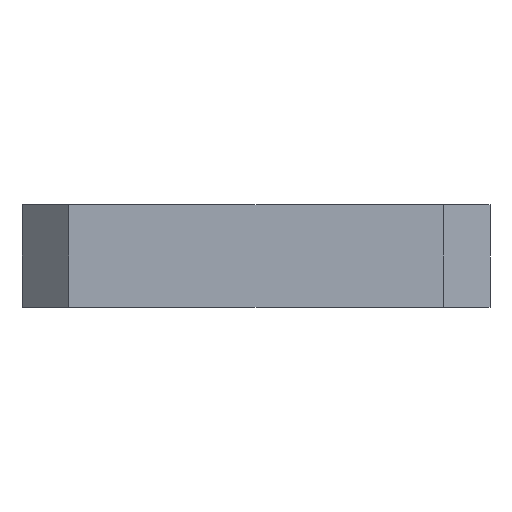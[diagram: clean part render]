
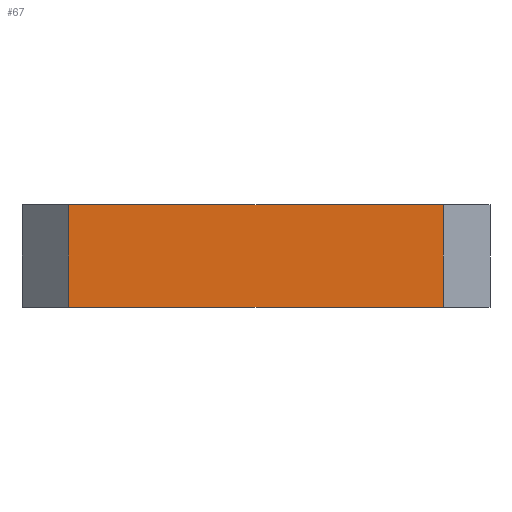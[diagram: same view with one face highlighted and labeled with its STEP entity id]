
A CAD part, front view. The second image highlights one B-rep face of the part: STEP entity #67.
In plain terms, the highlighted planar face has unit normal (0, -1, 0).
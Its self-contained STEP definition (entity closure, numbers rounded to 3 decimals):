
#67 = ADVANCED_FACE ( 'NONE', ( #1059 ), #865, .F. ) ;
#94 = CARTESIAN_POINT ( 'NONE',  ( 26477.704, -17360.301, -13751.478 ) ) ;
#193 = CARTESIAN_POINT ( 'NONE',  ( 26522.704, -17360.301, -13740.478 ) ) ;
#244 = VERTEX_POINT ( 'NONE', #1303 ) ;
#282 = ORIENTED_EDGE ( 'NONE', *, *, #369, .T. ) ;
#309 = ORIENTED_EDGE ( 'NONE', *, *, #331, .T. ) ;
#331 = EDGE_CURVE ( 'NONE', #1175, #244, #1033, .T. ) ;
#348 = DIRECTION ( 'NONE',  ( 0., 1., 0. ) ) ;
#369 = EDGE_CURVE ( 'NONE', #244, #880, #1331, .T. ) ;
#438 = VERTEX_POINT ( 'NONE', #1231 ) ;
#508 = DIRECTION ( 'NONE',  ( 1., 0., 0. ) ) ;
#514 = CARTESIAN_POINT ( 'NONE',  ( 26522.704, -17360.301, -13740.478 ) ) ;
#527 = DIRECTION ( 'NONE',  ( 1., 0., 0. ) ) ;
#539 = DIRECTION ( 'NONE',  ( 0., 0., 1. ) ) ;
#732 = LINE ( 'NONE', #924, #805 ) ;
#743 = ORIENTED_EDGE ( 'NONE', *, *, #1098, .F. ) ;
#760 = LINE ( 'NONE', #767, #956 ) ;
#767 = CARTESIAN_POINT ( 'NONE',  ( 26482.704, -17360.301, -13740.478 ) ) ;
#798 = ORIENTED_EDGE ( 'NONE', *, *, #1250, .F. ) ;
#805 = VECTOR ( 'NONE', #527, 1000. ) ;
#837 = EDGE_LOOP ( 'NONE', ( #798, #309, #282, #743 ) ) ;
#865 = PLANE ( 'NONE',  #1018 ) ;
#866 = VECTOR ( 'NONE', #1015, 1000. ) ;
#880 = VERTEX_POINT ( 'NONE', #514 ) ;
#924 = CARTESIAN_POINT ( 'NONE',  ( 26527.704, -17360.301, -13740.478 ) ) ;
#956 = VECTOR ( 'NONE', #539, 1000. ) ;
#960 = DIRECTION ( 'NONE',  ( 0., 0., 1. ) ) ;
#1015 = DIRECTION ( 'NONE',  ( 0., 0., 1. ) ) ;
#1018 = AXIS2_PLACEMENT_3D ( 'NONE', #1169, #348, #960 ) ;
#1033 = LINE ( 'NONE', #94, #1256 ) ;
#1040 = CARTESIAN_POINT ( 'NONE',  ( 26482.704, -17360.301, -13751.478 ) ) ;
#1059 = FACE_OUTER_BOUND ( 'NONE', #837, .T. ) ;
#1098 = EDGE_CURVE ( 'NONE', #438, #880, #732, .T. ) ;
#1169 = CARTESIAN_POINT ( 'NONE',  ( 26527.704, -17360.301, -13740.478 ) ) ;
#1175 = VERTEX_POINT ( 'NONE', #1040 ) ;
#1231 = CARTESIAN_POINT ( 'NONE',  ( 26482.704, -17360.301, -13740.478 ) ) ;
#1250 = EDGE_CURVE ( 'NONE', #1175, #438, #760, .T. ) ;
#1256 = VECTOR ( 'NONE', #508, 1000. ) ;
#1303 = CARTESIAN_POINT ( 'NONE',  ( 26522.704, -17360.301, -13751.478 ) ) ;
#1331 = LINE ( 'NONE', #193, #866 ) ;
